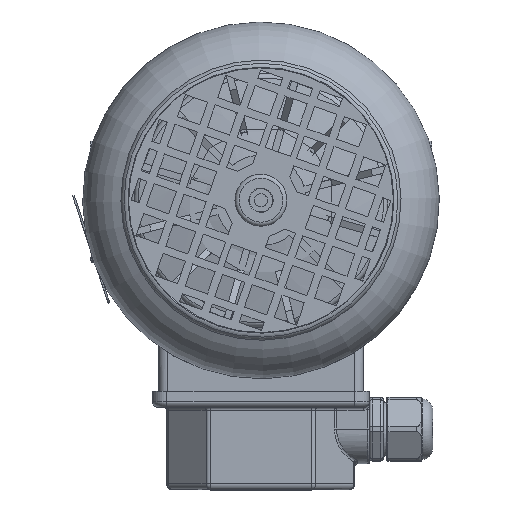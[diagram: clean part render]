
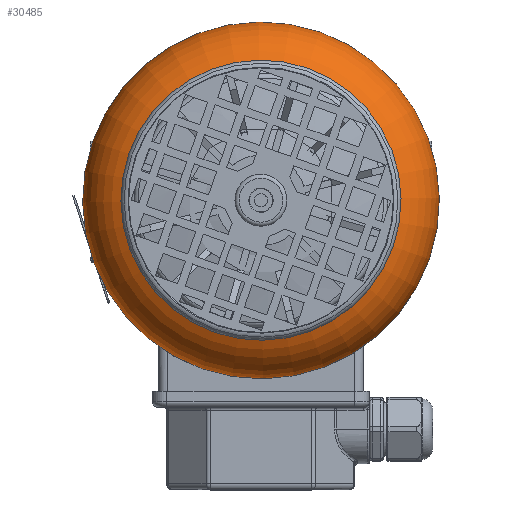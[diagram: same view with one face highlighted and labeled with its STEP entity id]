
A CAD part, top view. The second image highlights one B-rep face of the part: STEP entity #30485.
In plain terms, the highlighted toroidal (fillet/blend) face has major radius 39.917 mm and minor radius 21.794 mm.
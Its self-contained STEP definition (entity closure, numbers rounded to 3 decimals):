
#429=TOROIDAL_SURFACE('',#32970,39.917,21.794);
#7857=FACE_OUTER_BOUND('',#9666,.T.);
#9666=EDGE_LOOP('',(#24084,#24085,#24086,#24087));
#11311=CIRCLE('',#32947,61.711);
#11323=CIRCLE('',#32971,48.471);
#11324=CIRCLE('',#32972,21.794);
#13549=VERTEX_POINT('',#50779);
#13983=VERTEX_POINT('',#51668);
#17113=EDGE_CURVE('',#13549,#13549,#11311,.T.);
#17555=EDGE_CURVE('',#13983,#13983,#11323,.T.);
#17556=EDGE_CURVE('',#13983,#13549,#11324,.T.);
#24084=ORIENTED_EDGE('',*,*,#17555,.F.);
#24085=ORIENTED_EDGE('',*,*,#17556,.T.);
#24086=ORIENTED_EDGE('',*,*,#17113,.T.);
#24087=ORIENTED_EDGE('',*,*,#17556,.F.);
#30485=ADVANCED_FACE('',(#7857),#429,.T.);
#32947=AXIS2_PLACEMENT_3D('',#50781,#38289,#38290);
#32970=AXIS2_PLACEMENT_3D('',#51667,#38765,#38766);
#32971=AXIS2_PLACEMENT_3D('',#51669,#38767,#38768);
#32972=AXIS2_PLACEMENT_3D('',#51670,#38769,#38770);
#38289=DIRECTION('center_axis',(0.,0.,1.));
#38290=DIRECTION('ref_axis',(-0.944,0.33,0.));
#38765=DIRECTION('center_axis',(0.,0.,1.));
#38766=DIRECTION('ref_axis',(-0.944,0.33,0.));
#38767=DIRECTION('center_axis',(0.,0.,1.));
#38768=DIRECTION('ref_axis',(-0.944,0.33,0.));
#38769=DIRECTION('center_axis',(0.33,0.944,0.));
#38770=DIRECTION('ref_axis',(0.944,-0.33,0.));
#50779=CARTESIAN_POINT('',(-92.418,235.959,19.557));
#50781=CARTESIAN_POINT('Origin',(-150.667,256.338,19.557));
#51667=CARTESIAN_POINT('Origin',(-150.667,256.338,19.557));
#51668=CARTESIAN_POINT('',(-104.915,240.331,39.602));
#51669=CARTESIAN_POINT('Origin',(-150.667,256.338,39.602));
#51670=CARTESIAN_POINT('Origin',(-112.99,243.156,19.557));
